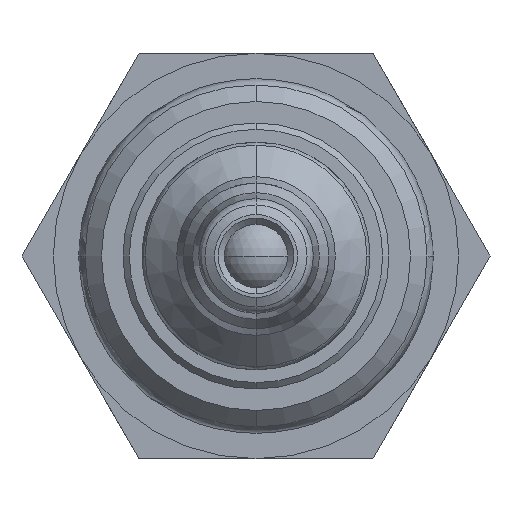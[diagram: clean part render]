
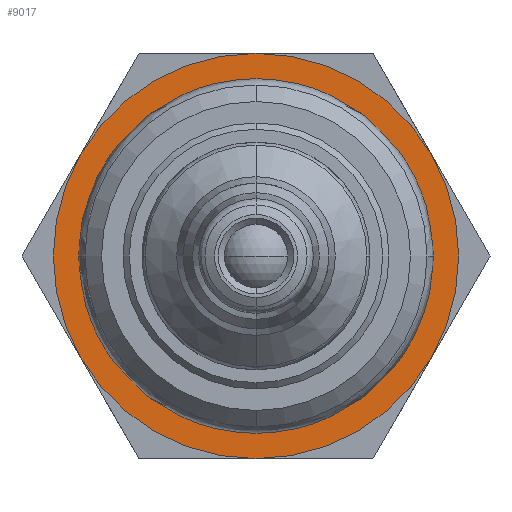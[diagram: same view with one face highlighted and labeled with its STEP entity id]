
A CAD part, front view. The second image highlights one B-rep face of the part: STEP entity #9017.
In plain terms, the highlighted planar face has unit normal (0, -1, 0).
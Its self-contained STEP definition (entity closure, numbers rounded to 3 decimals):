
#1815 = FACE_OUTER_BOUND ( 'NONE', #11720, .T. ) ;
#1819 = FACE_BOUND ( 'NONE', #11719, .T. ) ;
#1992 = VERTEX_POINT ( 'NONE', #8478 ) ;
#2076 = VERTEX_POINT ( 'NONE', #13093 ) ;
#3164 = EDGE_CURVE ( 'NONE', #7537, #7539, #8259, .T. ) ;
#3165 = EDGE_CURVE ( 'NONE', #1992, #2076, #8245, .T. ) ;
#3166 = EDGE_CURVE ( 'NONE', #2076, #1992, #8261, .T. ) ;
#3244 = EDGE_CURVE ( 'NONE', #7539, #7537, #8327, .T. ) ;
#3480 = PLANE ( 'NONE',  #10801 ) ;
#3487 = CARTESIAN_POINT ( 'NONE',  ( 12.75, 63.495, 0. ) ) ;
#3488 = DIRECTION ( 'NONE',  ( 0., -1., 0. ) ) ;
#3489 = DIRECTION ( 'NONE',  ( 0., 0., -1. ) ) ;
#3601 = CARTESIAN_POINT ( 'NONE',  ( 0., 63.495, -16. ) ) ;
#3623 = CARTESIAN_POINT ( 'NONE',  ( 0., 63.495, 16. ) ) ;
#7202 = ORIENTED_EDGE ( 'NONE', *, *, #3166, .F. ) ;
#7211 = ORIENTED_EDGE ( 'NONE', *, *, #3244, .T. ) ;
#7214 = ORIENTED_EDGE ( 'NONE', *, *, #3164, .T. ) ;
#7223 = ORIENTED_EDGE ( 'NONE', *, *, #3165, .F. ) ;
#7537 = VERTEX_POINT ( 'NONE', #3623 ) ;
#7539 = VERTEX_POINT ( 'NONE', #3601 ) ;
#8245 = CIRCLE ( 'NONE', #9346, 12.75 ) ;
#8259 = CIRCLE ( 'NONE', #9345, 16. ) ;
#8261 = CIRCLE ( 'NONE', #9347, 12.75 ) ;
#8327 = CIRCLE ( 'NONE', #9353, 16. ) ;
#8478 = CARTESIAN_POINT ( 'NONE',  ( 0., 63.495, -12.75 ) ) ;
#9017 = ADVANCED_FACE ( 'NONE', ( #1815, #1819 ), #3480, .T. ) ;
#9345 = AXIS2_PLACEMENT_3D ( 'NONE', #10863, #10864, #10865 ) ;
#9346 = AXIS2_PLACEMENT_3D ( 'NONE', #10867, #10868, #10869 ) ;
#9347 = AXIS2_PLACEMENT_3D ( 'NONE', #10872, #10873, #10874 ) ;
#9353 = AXIS2_PLACEMENT_3D ( 'NONE', #9753, #9754, #9755 ) ;
#9753 = CARTESIAN_POINT ( 'NONE',  ( 0., 63.495, 0. ) ) ;
#9754 = DIRECTION ( 'NONE',  ( 0., -1., 0. ) ) ;
#9755 = DIRECTION ( 'NONE',  ( 0., 0., -1. ) ) ;
#10801 = AXIS2_PLACEMENT_3D ( 'NONE', #3487, #3488, #3489 ) ;
#10863 = CARTESIAN_POINT ( 'NONE',  ( 0., 63.495, 0. ) ) ;
#10864 = DIRECTION ( 'NONE',  ( 0., -1., 0. ) ) ;
#10865 = DIRECTION ( 'NONE',  ( 0., 0., -1. ) ) ;
#10867 = CARTESIAN_POINT ( 'NONE',  ( 0., 63.495, 0. ) ) ;
#10868 = DIRECTION ( 'NONE',  ( 0., -1., 0. ) ) ;
#10869 = DIRECTION ( 'NONE',  ( 0., 0., -1. ) ) ;
#10872 = CARTESIAN_POINT ( 'NONE',  ( 0., 63.495, 0. ) ) ;
#10873 = DIRECTION ( 'NONE',  ( 0., -1., 0. ) ) ;
#10874 = DIRECTION ( 'NONE',  ( 0., 0., -1. ) ) ;
#11719 = EDGE_LOOP ( 'NONE', ( #7223, #7202 ) ) ;
#11720 = EDGE_LOOP ( 'NONE', ( #7211, #7214 ) ) ;
#13093 = CARTESIAN_POINT ( 'NONE',  ( 0., 63.495, 12.75 ) ) ;
